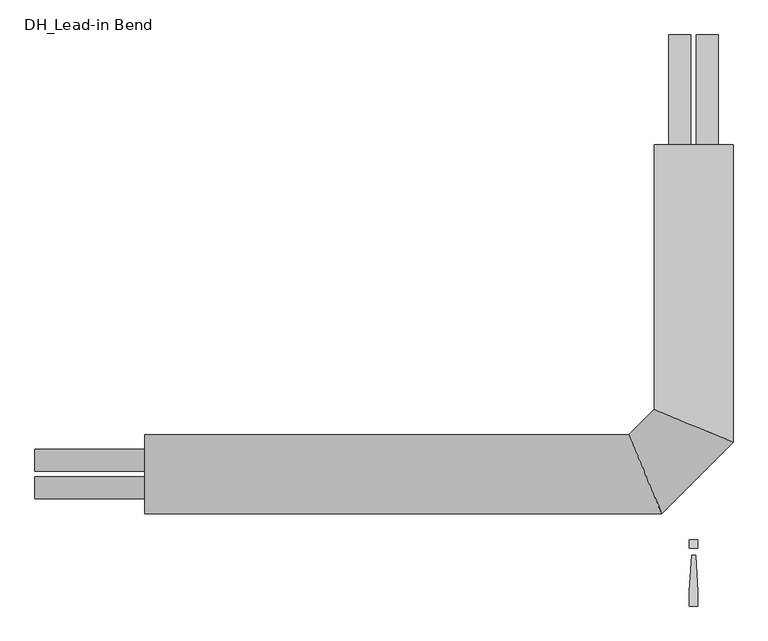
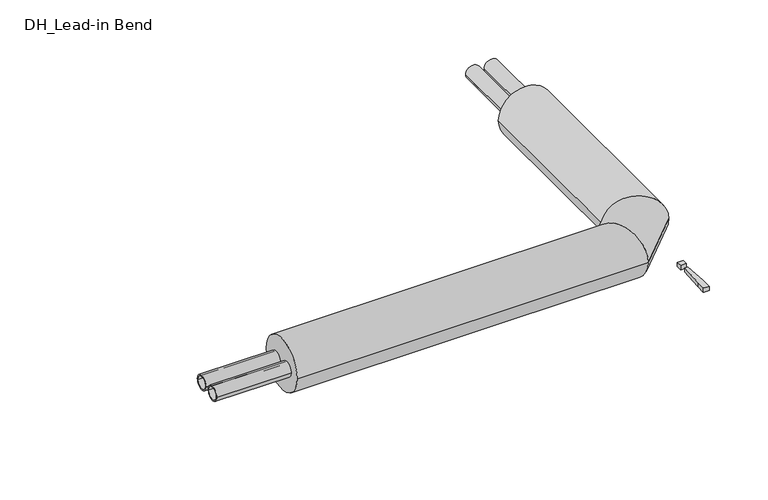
"""IFC4 building model written with IfcOpenShell, lengths in millimetres: pipe fitting geometry, DH_Lead-in Bend : INSULPEX DUO + 11 Heating Vertical."""

from ifc_helpers import new_model, si_unit, point, frame, frame_2d, origin, origin_with_axes, place, context, project, spatial, polyline, circle_curve, ellipse_curve, trimmed, segment, composite_curve, outline, extrude, source, transform, mapped, element, save
from ifc_brep_helpers import plane_surface, cylinder_surface, advanced_brep


def dh_lead_in_bend_39a4672d(model_context):
    return source(origin(), model_context, "Body", "SolidModel", [
        extrude(outline(composite_curve([segment(trimmed(circle_curve(frame_2d((-31.0, 0.0)), 25.0), [point((-6.0, 0.0))], [point((-56.0, 0.0))], False, "CARTESIAN"), True, "CONTINUOUS"), segment(trimmed(circle_curve(frame_2d((-31.0, 0.0)), 25.0), [point((-56.0, 0.0))], [point((-6.0, 0.0))], False, "CARTESIAN"), True, "CONTINUOUS")], self_intersect=False), holes=[composite_curve([segment(trimmed(circle_curve(frame_2d((-31.0, 0.0)), 20.4), [point((-10.6, 0.0))], [point((-51.4, 0.0))], True, "CARTESIAN"), True, "CONTINUOUS"), segment(trimmed(circle_curve(frame_2d((-31.0, 0.0)), 20.4), [point((-51.4, 0.0))], [point((-10.6, 0.0))], True, "CARTESIAN"), True, "CONTINUOUS")], self_intersect=False)]), frame((-1500.0, 0.0, 0.0), z_axis=(1.0, 0.0, 0.0), x_axis=(0.0, 1.0, 0.0)), (0.0, 0.0, 1.0), 250.0),
        advanced_brep(
        [(-1250.0, -90.0, 0.0), (-1250.0, 90.0, 0.0), (-72.7207794, -90.0, 0.0), (-147.2792206, 90.0, 0.0), (90.0, 750.0, 0.0), (-90.0, 750.0, 0.0), (-90.0, 147.2792206, 0.0), (90.0, 72.7207794, 0.0)],
        [
            (0, 1, circle_curve(frame((-1250.0, 0.0, 0.0), z_axis=(-1.0, 0.0, 0.0), x_axis=(0.0, 1.0, 0.0)), 90.0)),
            (1, 0, circle_curve(frame((-1250.0, 0.0, 0.0), z_axis=(-1.0, 0.0, 0.0), x_axis=(0.0, 1.0, 0.0)), 90.0)),
            (0, 2),
            (2, 3, ellipse_curve(frame((-110.0, 0.0, 0.0), z_axis=(-0.9238795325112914, -0.3826834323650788, 0.0), x_axis=(-0.38268343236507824, 0.9238795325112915, 0.0)), 97.415298, 90.0)),
            (3, 1),
            (3, 2, ellipse_curve(frame((-110.0, 0.0, 0.0), z_axis=(-0.9238795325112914, -0.3826834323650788, 0.0), x_axis=(-0.38268343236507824, 0.9238795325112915, 0.0)), 97.415298, 90.0)),
            (4, 5, circle_curve(frame((0.0, 750.0, 0.0), z_axis=(0.0, 1.0, 0.0), x_axis=(-1.0, 0.0, 0.0)), 90.0)),
            (5, 4, circle_curve(frame((0.0, 750.0, 0.0), z_axis=(0.0, 1.0, 0.0), x_axis=(-1.0, 0.0, 0.0)), 90.0)),
            (6, 7, ellipse_curve(frame((0.0, 110.0, 0.0), z_axis=(0.38268343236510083, 0.9238795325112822, 0.0), x_axis=(0.9238795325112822, -0.3826834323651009, 0.0)), 97.415298, 90.0)),
            (7, 4),
            (5, 6),
            (7, 6, ellipse_curve(frame((0.0, 110.0, 0.0), z_axis=(0.38268343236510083, 0.9238795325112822, 0.0), x_axis=(0.9238795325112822, -0.3826834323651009, 0.0)), 97.415298, 90.0)),
            (2, 7),
            (6, 3),
        ],
        [
            plane_surface(frame((-1250.0, 0.0, 0.0), z_axis=(-1.0, 0.0, 0.0), x_axis=(0.0, 0.0, 1.0))),
            cylinder_surface(frame((-1250.0, 0.0, 0.0), z_axis=(-1.0, 0.0, 0.0), x_axis=(0.0, 1.0, 0.0)), 90.0),
            plane_surface(frame((0.0, 750.0, 0.0), z_axis=(0.0, 1.0, 0.0), x_axis=(0.0, 0.0, 1.0))),
            cylinder_surface(frame((0.0, 110.0, 0.0), z_axis=(0.0, -1.0, 0.0), x_axis=(-1.0, 0.0, 0.0)), 90.0),
            cylinder_surface(frame((-110.0, 0.0, 0.0), z_axis=(-0.7071067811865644, -0.7071067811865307, 0.0), x_axis=(-0.7071067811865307, 0.7071067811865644, 0.0)), 90.0),
        ],
        [
            (0, [[1, 2]]),
            (1, [[-1, 3, 4, 5]]),
            (1, [[-2, -5, 6, -3]]),
            (2, [[7, 8]]),
            (3, [[9, 10, -8, 11]]),
            (3, [[12, -11, -7, -10]]),
            (4, [[-4, 13, -9, 14]]),
            (4, [[-6, -14, -12, -13]]),
        ],
    ),
        extrude(outline(composite_curve([segment(trimmed(circle_curve(frame_2d((0.0, -31.0)), 25.0), [point((0.0, -6.0))], [point((0.0, -56.0))], False, "CARTESIAN"), True, "CONTINUOUS"), segment(trimmed(circle_curve(frame_2d((0.0, -31.0)), 25.0), [point((0.0, -56.0))], [point((0.0, -6.0))], False, "CARTESIAN"), True, "CONTINUOUS")], self_intersect=False), holes=[composite_curve([segment(trimmed(circle_curve(frame_2d((0.0, -31.0)), 20.4), [point((0.0, -10.6))], [point((0.0, -51.4))], True, "CARTESIAN"), True, "CONTINUOUS"), segment(trimmed(circle_curve(frame_2d((0.0, -31.0)), 20.4), [point((0.0, -51.4))], [point((0.0, -10.6))], True, "CARTESIAN"), True, "CONTINUOUS")], self_intersect=False)]), frame((0.0, 750.0, 0.0), z_axis=(0.0, 1.0, 0.0), x_axis=(0.0, 0.0, 1.0)), (0.0, 0.0, 1.0), 250.0),
        extrude(outline(composite_curve([segment(trimmed(circle_curve(frame_2d((31.0, 0.0)), 25.0), [point((6.0, 0.0))], [point((56.0, 0.0))], False, "CARTESIAN"), True, "CONTINUOUS"), segment(trimmed(circle_curve(frame_2d((31.0, 0.0)), 25.0), [point((56.0, 0.0))], [point((6.0, 0.0))], False, "CARTESIAN"), True, "CONTINUOUS")], self_intersect=False), holes=[composite_curve([segment(trimmed(circle_curve(frame_2d((31.0, 0.0)), 20.4), [point((10.6, 0.0))], [point((51.4, 0.0))], True, "CARTESIAN"), True, "CONTINUOUS"), segment(trimmed(circle_curve(frame_2d((31.0, 0.0)), 20.4), [point((51.4, 0.0))], [point((10.6, 0.0))], True, "CARTESIAN"), True, "CONTINUOUS")], self_intersect=False)]), frame((-1500.0, 0.0, 0.0), z_axis=(1.0, 0.0, 0.0), x_axis=(0.0, 1.0, 0.0)), (0.0, 0.0, 1.0), 250.0),
        extrude(outline(composite_curve([segment(trimmed(circle_curve(frame_2d((0.0, 31.0)), 25.0), [point((0.0, 6.0))], [point((0.0, 56.0))], False, "CARTESIAN"), True, "CONTINUOUS"), segment(trimmed(circle_curve(frame_2d((0.0, 31.0)), 25.0), [point((0.0, 56.0))], [point((0.0, 6.0))], False, "CARTESIAN"), True, "CONTINUOUS")], self_intersect=False), holes=[composite_curve([segment(trimmed(circle_curve(frame_2d((0.0, 31.0)), 20.4), [point((0.0, 10.6))], [point((0.0, 51.4))], True, "CARTESIAN"), True, "CONTINUOUS"), segment(trimmed(circle_curve(frame_2d((0.0, 31.0)), 20.4), [point((0.0, 51.4))], [point((0.0, 10.6))], True, "CARTESIAN"), True, "CONTINUOUS")], self_intersect=False)]), frame((0.0, 750.0, 0.0), z_axis=(0.0, 1.0, 0.0), x_axis=(0.0, 0.0, 1.0)), (0.0, 0.0, 1.0), 250.0),
        extrude(outline(polyline([(4.7088895, -185.3166715), (9.4177791, -266.6553807), (9.4177791, -300.6844652), (-9.4177791, -300.6844652), (-9.4177791, -266.6553807), (-4.7088895, -185.3166715), (4.7088895, -185.3166715)])), origin_with_axes(), (0.0, 0.0, 1.0), 15.0),
        extrude(outline(polyline([(9.4177791, -150.0), (9.4177791, -168.8355582), (-9.4177791, -168.8355582), (-9.4177791, -150.0), (9.4177791, -150.0)])), origin_with_axes(), (0.0, 0.0, 1.0), 15.0),
    ])


if __name__ == "__main__":
    model = new_model("IFC4")
    model_context = context("Model", 3, world=origin())
    ifc_project = project(units=[si_unit("LENGTHUNIT", "METRE", prefix="MILLI")], contexts=[model_context])
    site = spatial("IfcSite", under=ifc_project)
    building = spatial("IfcBuilding", under=site)
    placement = place(None, origin())
    dh_lead_in_bend_shape = dh_lead_in_bend_39a4672d(model_context)
    element("IfcPipeFitting", 1, ObjectType="DH_Lead-in Bend : INSULPEX DUO + 11 Heating Vertical", at=placement, inside=building, context=model_context, shape_type="MappedRepresentation", body=[
        mapped(dh_lead_in_bend_shape, transform((0.0, 0.0, 0.0), x_axis=(1.0, 0.0, 0.0), y_axis=(0.0, 1.0, 0.0), z_axis=(0.0, 0.0, 1.0))),
    ])
    save(model, "model.ifc")
